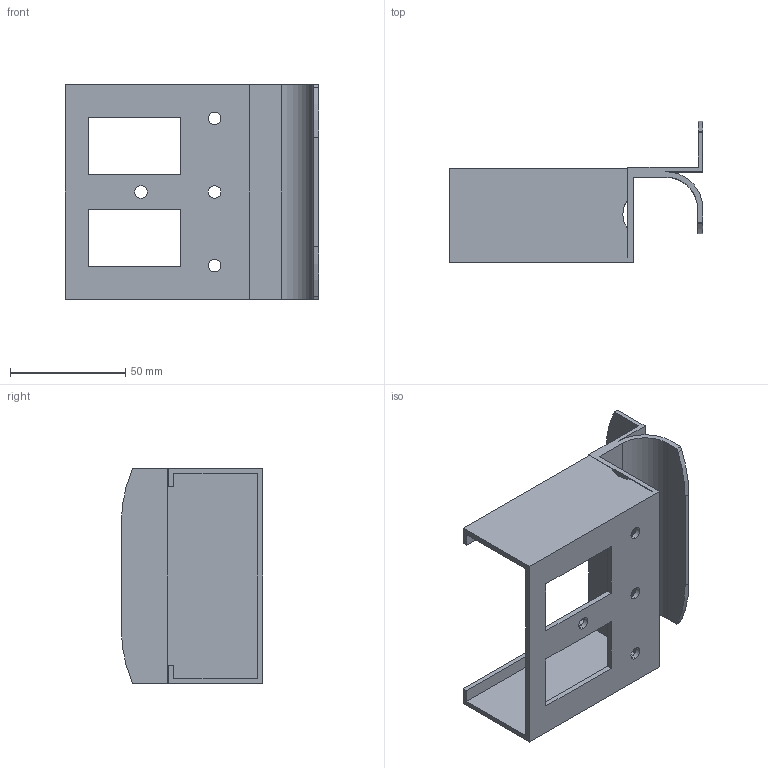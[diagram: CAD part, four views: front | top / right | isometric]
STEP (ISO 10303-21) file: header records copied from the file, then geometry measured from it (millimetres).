
FILE_DESCRIPTION (( 'STEP AP214' ), '1' );
FILE_NAME ('JB-502BW.step', '2024-01-17T00:58:25', ( 'catia' ), ( 'HP Inc.' ), 'SwSTEP 2.0', 'SolidWorks 2021', '' );
FILE_SCHEMA (( 'AUTOMOTIVE_DESIGN' ));
Length unit declared in the file: millimetre
Products named in the file (1): JB-502BW
Bounding box: 110.3 x 61.4 x 93.4 mm (x, y, z)
Volume: 55971.3 mm3; surface area: 49757.5 mm2
Topology: 1 solids, 1 shells, 56 faces, 162 edges, 108 vertices
Faces by surface type: plane 40, cylinder 16
Entity records: 1896 total; most frequent: CARTESIAN_POINT 327, ORIENTED_EDGE 324, DIRECTION 308, EDGE_CURVE 162, LINE 130, VECTOR 130, VERTEX_POINT 108, AXIS2_PLACEMENT_3D 89
